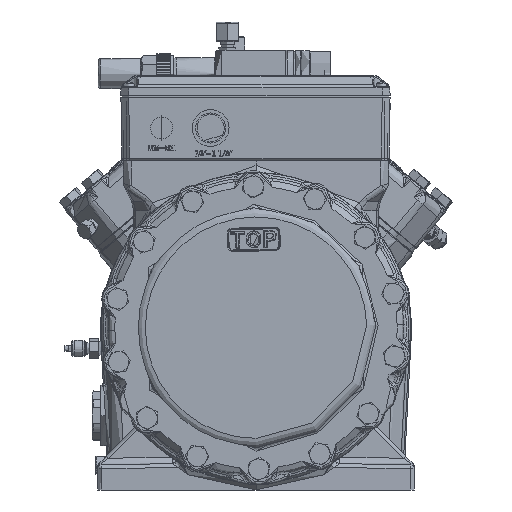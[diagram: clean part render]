
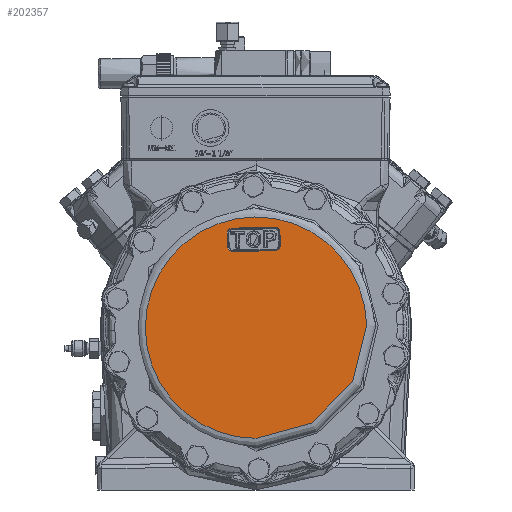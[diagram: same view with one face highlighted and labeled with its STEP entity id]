
A CAD part, front view. The second image highlights one B-rep face of the part: STEP entity #202357.
In plain terms, the highlighted planar face has unit normal (0, -1, 0).
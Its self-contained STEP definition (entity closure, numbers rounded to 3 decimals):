
#201082=CARTESIAN_POINT('',(18.828,-222.247,79.632));
#201083=VERTEX_POINT('',#201082);
#201102=CARTESIAN_POINT('',(21.758,-222.247,76.814));
#201103=VERTEX_POINT('',#201102);
#201111=CARTESIAN_POINT('',(18.828,-222.247,79.632));
#201112=CARTESIAN_POINT('',(21.702,-222.247,79.688));
#201113=CARTESIAN_POINT('',(21.758,-222.247,76.814));
#201114=(BOUNDED_CURVE()
B_SPLINE_CURVE(2,(#201111,#201112,#201113),.UNSPECIFIED.,.F.,.F.)
B_SPLINE_CURVE_WITH_KNOTS((3,3),(140.144,219.856),.UNSPECIFIED.)
CURVE()
GEOMETRIC_REPRESENTATION_ITEM()
RATIONAL_B_SPLINE_CURVE((1.,0.768,1.))
REPRESENTATION_ITEM(''));
#201115=EDGE_CURVE('',#201083,#201103,#201114,.T.);
#201133=CARTESIAN_POINT('',(-18.584,-222.247,76.03));
#201134=VERTEX_POINT('',#201133);
#201153=CARTESIAN_POINT('',(-15.766,-222.247,78.96));
#201154=VERTEX_POINT('',#201153);
#201162=CARTESIAN_POINT('',(-18.584,-222.247,76.03));
#201163=CARTESIAN_POINT('',(-18.64,-222.247,78.904));
#201164=CARTESIAN_POINT('',(-15.766,-222.247,78.96));
#201165=(BOUNDED_CURVE()
B_SPLINE_CURVE(2,(#201162,#201163,#201164),.UNSPECIFIED.,.F.,.F.)
B_SPLINE_CURVE_WITH_KNOTS((3,3),(140.144,219.856),.UNSPECIFIED.)
CURVE()
GEOMETRIC_REPRESENTATION_ITEM()
RATIONAL_B_SPLINE_CURVE((1.,0.768,1.))
REPRESENTATION_ITEM(''));
#201166=EDGE_CURVE('',#201134,#201154,#201165,.T.);
#201178=CARTESIAN_POINT('',(-15.417,-222.247,61.012));
#201179=VERTEX_POINT('',#201178);
#201187=CARTESIAN_POINT('',(19.177,-222.247,61.685));
#201188=VERTEX_POINT('',#201187);
#201189=CARTESIAN_POINT('',(19.177,-222.247,61.685));
#201190=DIRECTION('',(-1.,0.,-0.019));
#201191=VECTOR('',#201190,34.601);
#201192=LINE('',#201189,#201191);
#201193=EDGE_CURVE('',#201188,#201179,#201192,.T.);
#201701=CARTESIAN_POINT('',(21.995,-222.247,64.614));
#201702=VERTEX_POINT('',#201701);
#201703=CARTESIAN_POINT('',(21.995,-222.247,64.614));
#201704=CARTESIAN_POINT('',(22.051,-222.247,61.74));
#201705=CARTESIAN_POINT('',(19.177,-222.247,61.685));
#201706=(BOUNDED_CURVE()
B_SPLINE_CURVE(2,(#201703,#201704,#201705),.UNSPECIFIED.,.F.,.F.)
B_SPLINE_CURVE_WITH_KNOTS((3,3),(140.144,219.856),.UNSPECIFIED.)
CURVE()
GEOMETRIC_REPRESENTATION_ITEM()
RATIONAL_B_SPLINE_CURVE((1.,0.768,1.))
REPRESENTATION_ITEM(''));
#201707=EDGE_CURVE('',#201702,#201188,#201706,.T.);
#201885=CARTESIAN_POINT('',(21.758,-222.247,76.814));
#201886=DIRECTION('',(0.019,-0.,-1.));
#201887=VECTOR('',#201886,12.202);
#201888=LINE('',#201885,#201887);
#201889=EDGE_CURVE('',#201103,#201702,#201888,.T.);
#201928=CARTESIAN_POINT('',(-18.347,-222.247,63.83));
#201929=VERTEX_POINT('',#201928);
#201937=CARTESIAN_POINT('',(-15.417,-222.247,61.012));
#201938=CARTESIAN_POINT('',(-18.291,-222.247,60.956));
#201939=CARTESIAN_POINT('',(-18.347,-222.247,63.83));
#201940=(BOUNDED_CURVE()
B_SPLINE_CURVE(2,(#201937,#201938,#201939),.UNSPECIFIED.,.F.,.F.)
B_SPLINE_CURVE_WITH_KNOTS((3,3),(140.144,219.856),.UNSPECIFIED.)
CURVE()
GEOMETRIC_REPRESENTATION_ITEM()
RATIONAL_B_SPLINE_CURVE((1.,0.768,1.))
REPRESENTATION_ITEM(''));
#201941=EDGE_CURVE('',#201179,#201929,#201940,.T.);
#201954=CARTESIAN_POINT('',(-15.766,-222.247,78.96));
#201955=DIRECTION('',(1.,-0.,0.019));
#201956=VECTOR('',#201955,34.601);
#201957=LINE('',#201954,#201956);
#201958=EDGE_CURVE('',#201154,#201083,#201957,.T.);
#202024=CARTESIAN_POINT('',(-18.347,-222.247,63.83));
#202025=DIRECTION('',(-0.019,0.,1.));
#202026=VECTOR('',#202025,12.202);
#202027=LINE('',#202024,#202026);
#202028=EDGE_CURVE('',#201929,#201134,#202027,.T.);
#202306=CARTESIAN_POINT('',(88.27,-222.247,4.291));
#202307=VERTEX_POINT('',#202306);
#202319=CARTESIAN_POINT('',(3.405,-222.247,-82.239));
#202320=VERTEX_POINT('',#202319);
#202321=CARTESIAN_POINT('',(3.405,-222.247,2.642));
#202322=DIRECTION('',(0.,1.,-0.));
#202323=DIRECTION('',(0.,-0.,-1.));
#202324=AXIS2_PLACEMENT_3D('',#202321,#202322,#202323);
#202325=CIRCLE('',#202324,84.881);
#202326=EDGE_CURVE('',#202307,#202320,#202325,.T.);
#202328=CARTESIAN_POINT('',(3.405,-222.247,2.642));
#202329=DIRECTION('',(0.,1.,-0.));
#202330=DIRECTION('',(0.,-0.,-1.));
#202331=AXIS2_PLACEMENT_3D('',#202328,#202329,#202330);
#202332=CIRCLE('',#202331,84.881);
#202333=EDGE_CURVE('',#202320,#202307,#202332,.T.);
#202338=CARTESIAN_POINT('',(3.405,-222.247,2.642));
#202339=DIRECTION('',(0.,1.,-0.));
#202340=DIRECTION('',(0.019,-0.,-1.));
#202341=AXIS2_PLACEMENT_3D('',#202338,#202339,#202340);
#202342=PLANE('',#202341);
#202343=ORIENTED_EDGE('',*,*,#202326,.F.);
#202344=ORIENTED_EDGE('',*,*,#202333,.F.);
#202345=EDGE_LOOP('',(#202343,#202344));
#202346=FACE_BOUND('',#202345,.T.);
#202347=ORIENTED_EDGE('',*,*,#201889,.T.);
#202348=ORIENTED_EDGE('',*,*,#201707,.T.);
#202349=ORIENTED_EDGE('',*,*,#201193,.T.);
#202350=ORIENTED_EDGE('',*,*,#201941,.T.);
#202351=ORIENTED_EDGE('',*,*,#202028,.T.);
#202352=ORIENTED_EDGE('',*,*,#201166,.T.);
#202353=ORIENTED_EDGE('',*,*,#201958,.T.);
#202354=ORIENTED_EDGE('',*,*,#201115,.T.);
#202355=EDGE_LOOP('',(#202347,#202348,#202349,#202350,#202351,#202352,#202353,#202354));
#202356=FACE_BOUND('',#202355,.T.);
#202357=ADVANCED_FACE('',(#202346,#202356),#202342,.F.);
